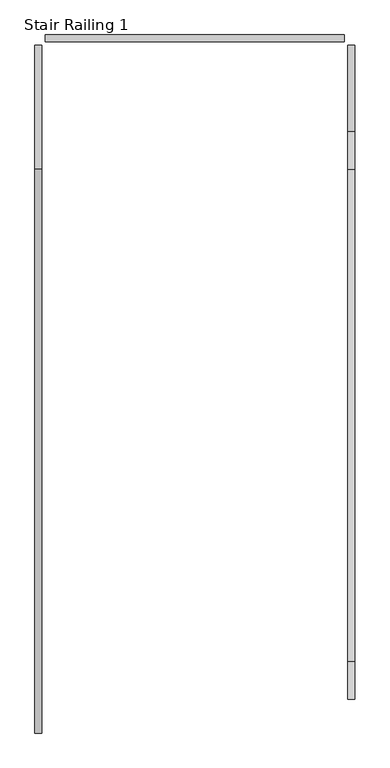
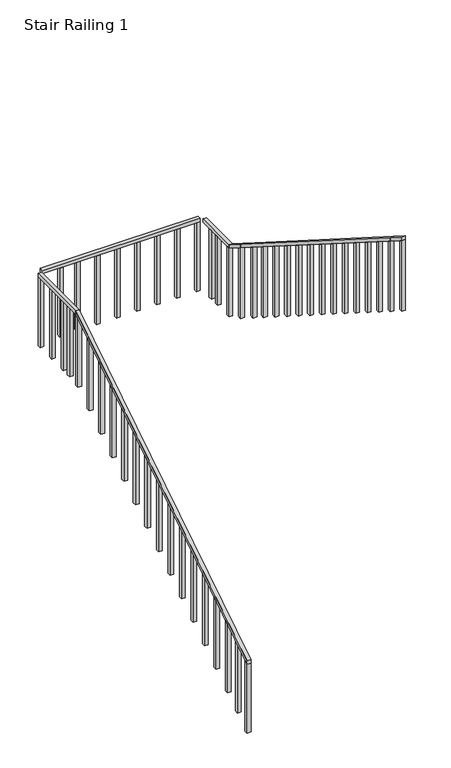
"""IFC4 building model written with IfcOpenShell, lengths in millimetres: railing geometry, Stair Railing 1."""

from ifc_helpers import new_model, si_unit, frame, origin, place, context, project, spatial, polyline, outline, extrude, source, transform, mapped, element, save


def stair_railing_1_c91c3353(model_context):
    return source(origin(), model_context, "Body", "SweptSolid", [
        extrude(outline(polyline([(42831.8085139, 3898.4903226), (42831.8085139, 3847.6903226), (38672.0798985, 1192.9806452), (38672.0798985, 1243.7806452), (42831.8085139, 3898.4903226)])), frame((-115094.690902, 0.0, 0.0), z_axis=(1.0, 0.0, 0.0), x_axis=(0.0, 1.0, 0.0)), (0.0, 0.0, 1.0), 50.8),
        extrude(outline(polyline([(38722.8798985, 1225.4008495), (38722.8798985, 176.9806452), (38672.0798985, 176.9806452), (38672.0798985, 1192.9806452), (38722.8798985, 1225.4008495)])), frame((-115094.690902, 0.0, 0.0), z_axis=(1.0, 0.0, 0.0), x_axis=(0.0, 1.0, 0.0)), (0.0, 0.0, 1.0), 50.8),
        extrude(outline(polyline([(38961.2442062, 1377.5232817), (38961.2442062, 329.1030774), (38910.4442062, 329.1030774), (38910.4442062, 1345.1030774), (38961.2442062, 1377.5232817)])), frame((-115094.690902, 0.0, 0.0), z_axis=(1.0, 0.0, 0.0), x_axis=(0.0, 1.0, 0.0)), (0.0, 0.0, 1.0), 50.8),
        extrude(outline(polyline([(39199.6085139, 1529.645714), (39199.6085139, 481.2255097), (39148.8085139, 481.2255097), (39148.8085139, 1497.2255097), (39199.6085139, 1529.645714)])), frame((-115094.690902, 0.0, 0.0), z_axis=(1.0, 0.0, 0.0), x_axis=(0.0, 1.0, 0.0)), (0.0, 0.0, 1.0), 50.8),
        extrude(outline(polyline([(39479.0085139, 1707.9568377), (39479.0085139, 659.5366334), (39428.2085139, 659.5366334), (39428.2085139, 1675.5366334), (39479.0085139, 1707.9568377)])), frame((-115094.690902, 0.0, 0.0), z_axis=(1.0, 0.0, 0.0), x_axis=(0.0, 1.0, 0.0)), (0.0, 0.0, 1.0), 50.8),
        extrude(outline(polyline([(39758.4085139, 1886.2679614), (39758.4085139, 837.8477571), (39707.6085139, 837.8477571), (39707.6085139, 1853.8477571), (39758.4085139, 1886.2679614)])), frame((-115094.690902, 0.0, 0.0), z_axis=(1.0, 0.0, 0.0), x_axis=(0.0, 1.0, 0.0)), (0.0, 0.0, 1.0), 50.8),
        extrude(outline(polyline([(40037.8085139, 2064.5790852), (40037.8085139, 1016.1588809), (39987.0085139, 1016.1588809), (39987.0085139, 2032.1588809), (40037.8085139, 2064.5790852)])), frame((-115094.690902, 0.0, 0.0), z_axis=(1.0, 0.0, 0.0), x_axis=(0.0, 1.0, 0.0)), (0.0, 0.0, 1.0), 50.8),
        extrude(outline(polyline([(40317.2085139, 2242.8902089), (40317.2085139, 1194.4700046), (40266.4085139, 1194.4700046), (40266.4085139, 2210.4700046), (40317.2085139, 2242.8902089)])), frame((-115094.690902, 0.0, 0.0), z_axis=(1.0, 0.0, 0.0), x_axis=(0.0, 1.0, 0.0)), (0.0, 0.0, 1.0), 50.8),
        extrude(outline(polyline([(40596.6085139, 2421.2013327), (40596.6085139, 1372.7811284), (40545.8085139, 1372.7811284), (40545.8085139, 2388.7811284), (40596.6085139, 2421.2013327)])), frame((-115094.690902, 0.0, 0.0), z_axis=(1.0, 0.0, 0.0), x_axis=(0.0, 1.0, 0.0)), (0.0, 0.0, 1.0), 50.8),
        extrude(outline(polyline([(40876.0085139, 2599.5124564), (40876.0085139, 1551.0922521), (40825.2085139, 1551.0922521), (40825.2085139, 2567.0922521), (40876.0085139, 2599.5124564)])), frame((-115094.690902, 0.0, 0.0), z_axis=(1.0, 0.0, 0.0), x_axis=(0.0, 1.0, 0.0)), (0.0, 0.0, 1.0), 50.8),
        extrude(outline(polyline([(41155.4085139, 2777.8235801), (41155.4085139, 1729.4033758), (41104.6085139, 1729.4033758), (41104.6085139, 2745.4033758), (41155.4085139, 2777.8235801)])), frame((-115094.690902, 0.0, 0.0), z_axis=(1.0, 0.0, 0.0), x_axis=(0.0, 1.0, 0.0)), (0.0, 0.0, 1.0), 50.8),
        extrude(outline(polyline([(41434.8085139, 2956.1347039), (41434.8085139, 1907.7144996), (41384.0085139, 1907.7144996), (41384.0085139, 2923.7144996), (41434.8085139, 2956.1347039)])), frame((-115094.690902, 0.0, 0.0), z_axis=(1.0, 0.0, 0.0), x_axis=(0.0, 1.0, 0.0)), (0.0, 0.0, 1.0), 50.8),
        extrude(outline(polyline([(41714.2085139, 3134.4458276), (41714.2085139, 2086.0256233), (41663.4085139, 2086.0256233), (41663.4085139, 3102.0256233), (41714.2085139, 3134.4458276)])), frame((-115094.690902, 0.0, 0.0), z_axis=(1.0, 0.0, 0.0), x_axis=(0.0, 1.0, 0.0)), (0.0, 0.0, 1.0), 50.8),
        extrude(outline(polyline([(41993.6085139, 3312.7569514), (41993.6085139, 2264.336747), (41942.8085139, 2264.336747), (41942.8085139, 3280.336747), (41993.6085139, 3312.7569514)])), frame((-115094.690902, 0.0, 0.0), z_axis=(1.0, 0.0, 0.0), x_axis=(0.0, 1.0, 0.0)), (0.0, 0.0, 1.0), 50.8),
        extrude(outline(polyline([(42273.0085139, 3491.0680751), (42273.0085139, 2442.6478708), (42222.2085139, 2442.6478708), (42222.2085139, 3458.6478708), (42273.0085139, 3491.0680751)])), frame((-115094.690902, 0.0, 0.0), z_axis=(1.0, 0.0, 0.0), x_axis=(0.0, 1.0, 0.0)), (0.0, 0.0, 1.0), 50.8),
        extrude(outline(polyline([(42552.4085139, 3669.3791988), (42552.4085139, 2620.9589945), (42501.6085139, 2620.9589945), (42501.6085139, 3636.9589945), (42552.4085139, 3669.3791988)])), frame((-115094.690902, 0.0, 0.0), z_axis=(1.0, 0.0, 0.0), x_axis=(0.0, 1.0, 0.0)), (0.0, 0.0, 1.0), 50.8),
        extrude(outline(polyline([(42831.8085139, 3847.6903226), (42831.8085139, 2799.2701183), (42781.0085139, 2799.2701183), (42781.0085139, 3815.2701183), (42831.8085139, 3847.6903226)])), frame((-115094.690902, 0.0, 0.0), z_axis=(1.0, 0.0, 0.0), x_axis=(0.0, 1.0, 0.0)), (0.0, 0.0, 1.0), 50.8),
        extrude(outline(polyline([(-115094.690902, 43746.2085139), (-115043.890902, 43746.2085139), (-115043.890902, 42831.8085139), (-115094.690902, 42831.8085139), (-115094.690902, 43746.2085139)])), frame((0.0, 0.0, 3847.6903226), z_axis=(0.0, 0.0, 1.0), x_axis=(1.0, 0.0, 0.0)), (0.0, 0.0, 1.0), 50.8),
        extrude(outline(polyline([(-115043.890902, 42984.2085139), (-115094.690902, 42984.2085139), (-115094.690902, 43035.0085139), (-115043.890902, 43035.0085139), (-115043.890902, 42984.2085139)])), frame((0.0, 0.0, 2831.6903226), z_axis=(0.0, 0.0, 1.0), x_axis=(1.0, 0.0, 0.0)), (0.0, 0.0, 1.0), 1016.0),
        extrude(outline(polyline([(-115043.890902, 43136.6085139), (-115094.690902, 43136.6085139), (-115094.690902, 43187.4085139), (-115043.890902, 43187.4085139), (-115043.890902, 43136.6085139)])), frame((0.0, 0.0, 2831.6903226), z_axis=(0.0, 0.0, 1.0), x_axis=(1.0, 0.0, 0.0)), (0.0, 0.0, 1.0), 1016.0),
        extrude(outline(polyline([(-115043.890902, 43416.0085139), (-115094.690902, 43416.0085139), (-115094.690902, 43466.8085139), (-115043.890902, 43466.8085139), (-115043.890902, 43416.0085139)])), frame((0.0, 0.0, 2831.6903226), z_axis=(0.0, 0.0, 1.0), x_axis=(1.0, 0.0, 0.0)), (0.0, 0.0, 1.0), 1016.0),
        extrude(outline(polyline([(-115043.890902, 43695.4085139), (-115094.690902, 43695.4085139), (-115094.690902, 43746.2085139), (-115043.890902, 43746.2085139), (-115043.890902, 43695.4085139)])), frame((0.0, 0.0, 2831.6903226), z_axis=(0.0, 0.0, 1.0), x_axis=(1.0, 0.0, 0.0)), (0.0, 0.0, 1.0), 1016.0),
        extrude(outline(polyline([(-112810.6492148, 43822.4085139), (-112810.6492148, 43771.6085139), (-115018.490902, 43771.6085139), (-115018.490902, 43822.4085139), (-112810.6492148, 43822.4085139)])), frame((0.0, 0.0, 3847.6903226), z_axis=(0.0, 0.0, 1.0), x_axis=(1.0, 0.0, 0.0)), (0.0, 0.0, 1.0), 50.8),
        extrude(outline(polyline([(-114778.1700584, 43771.6085139), (-114778.1700584, 43822.4085139), (-114727.3700584, 43822.4085139), (-114727.3700584, 43771.6085139), (-114778.1700584, 43771.6085139)])), frame((0.0, 0.0, 2831.6903226), z_axis=(0.0, 0.0, 1.0), x_axis=(1.0, 0.0, 0.0)), (0.0, 0.0, 1.0), 1016.0),
        extrude(outline(polyline([(-114537.8492148, 43771.6085139), (-114537.8492148, 43822.4085139), (-114487.0492148, 43822.4085139), (-114487.0492148, 43771.6085139), (-114537.8492148, 43771.6085139)])), frame((0.0, 0.0, 2831.6903226), z_axis=(0.0, 0.0, 1.0), x_axis=(1.0, 0.0, 0.0)), (0.0, 0.0, 1.0), 1016.0),
        extrude(outline(polyline([(-114258.4492148, 43771.6085139), (-114258.4492148, 43822.4085139), (-114207.6492148, 43822.4085139), (-114207.6492148, 43771.6085139), (-114258.4492148, 43771.6085139)])), frame((0.0, 0.0, 2831.6903226), z_axis=(0.0, 0.0, 1.0), x_axis=(1.0, 0.0, 0.0)), (0.0, 0.0, 1.0), 1016.0),
        extrude(outline(polyline([(-113979.0492148, 43771.6085139), (-113979.0492148, 43822.4085139), (-113928.2492148, 43822.4085139), (-113928.2492148, 43771.6085139), (-113979.0492148, 43771.6085139)])), frame((0.0, 0.0, 2831.6903226), z_axis=(0.0, 0.0, 1.0), x_axis=(1.0, 0.0, 0.0)), (0.0, 0.0, 1.0), 1016.0),
        extrude(outline(polyline([(-113699.6492148, 43771.6085139), (-113699.6492148, 43822.4085139), (-113648.8492148, 43822.4085139), (-113648.8492148, 43771.6085139), (-113699.6492148, 43771.6085139)])), frame((0.0, 0.0, 2831.6903226), z_axis=(0.0, 0.0, 1.0), x_axis=(1.0, 0.0, 0.0)), (0.0, 0.0, 1.0), 1016.0),
        extrude(outline(polyline([(-113420.2492148, 43771.6085139), (-113420.2492148, 43822.4085139), (-113369.4492148, 43822.4085139), (-113369.4492148, 43771.6085139), (-113420.2492148, 43771.6085139)])), frame((0.0, 0.0, 2831.6903226), z_axis=(0.0, 0.0, 1.0), x_axis=(1.0, 0.0, 0.0)), (0.0, 0.0, 1.0), 1016.0),
        extrude(outline(polyline([(-113140.8492148, 43771.6085139), (-113140.8492148, 43822.4085139), (-113090.0492148, 43822.4085139), (-113090.0492148, 43771.6085139), (-113140.8492148, 43771.6085139)])), frame((0.0, 0.0, 2831.6903226), z_axis=(0.0, 0.0, 1.0), x_axis=(1.0, 0.0, 0.0)), (0.0, 0.0, 1.0), 1016.0),
        extrude(outline(polyline([(-112861.4492148, 43771.6085139), (-112861.4492148, 43822.4085139), (-112810.6492148, 43822.4085139), (-112810.6492148, 43771.6085139), (-112861.4492148, 43771.6085139)])), frame((0.0, 0.0, 2831.6903226), z_axis=(0.0, 0.0, 1.0), x_axis=(1.0, 0.0, 0.0)), (0.0, 0.0, 1.0), 1016.0),
        extrude(outline(polyline([(-112734.4492148, 43111.2085139), (-112785.2492148, 43111.2085139), (-112785.2492148, 43746.2085139), (-112734.4492148, 43746.2085139), (-112734.4492148, 43111.2085139)])), frame((0.0, 0.0, 3847.6903226), z_axis=(0.0, 0.0, 1.0), x_axis=(1.0, 0.0, 0.0)), (0.0, 0.0, 1.0), 50.8),
        extrude(outline(polyline([(-112785.2492148, 43593.8085139), (-112734.4492148, 43593.8085139), (-112734.4492148, 43543.0085139), (-112785.2492148, 43543.0085139), (-112785.2492148, 43593.8085139)])), frame((0.0, 0.0, 2831.6903226), z_axis=(0.0, 0.0, 1.0), x_axis=(1.0, 0.0, 0.0)), (0.0, 0.0, 1.0), 1016.0),
        extrude(outline(polyline([(-112785.2492148, 43441.4085139), (-112734.4492148, 43441.4085139), (-112734.4492148, 43390.6085139), (-112785.2492148, 43390.6085139), (-112785.2492148, 43441.4085139)])), frame((0.0, 0.0, 2831.6903226), z_axis=(0.0, 0.0, 1.0), x_axis=(1.0, 0.0, 0.0)), (0.0, 0.0, 1.0), 1016.0),
        extrude(outline(polyline([(-112785.2492148, 43162.0085139), (-112734.4492148, 43162.0085139), (-112734.4492148, 43111.2085139), (-112785.2492148, 43111.2085139), (-112785.2492148, 43162.0085139)])), frame((0.0, 0.0, 2831.6903226), z_axis=(0.0, 0.0, 1.0), x_axis=(1.0, 0.0, 0.0)), (0.0, 0.0, 1.0), 1016.0),
        extrude(outline(polyline([(42831.8085139, 4024.6709677), (42831.8085139, 4075.4709677), (43111.2085139, 3898.4903226), (43111.2085139, 3847.6903226), (42831.8085139, 4024.6709677)])), frame((-112785.2492148, 0.0, 0.0), z_axis=(1.0, 0.0, 0.0), x_axis=(0.0, 1.0, 0.0)), (0.0, 0.0, 1.0), 50.8),
        extrude(outline(polyline([(42882.6085139, 3992.4926686), (42882.6085139, 2976.4926686), (42831.8085139, 2976.4926686), (42831.8085139, 4024.6709677), (42882.6085139, 3992.4926686)])), frame((-112785.2492148, 0.0, 0.0), z_axis=(1.0, 0.0, 0.0), x_axis=(0.0, 1.0, 0.0)), (0.0, 0.0, 1.0), 50.8),
        extrude(outline(polyline([(39199.6085139, 6325.4193548), (39199.6085139, 6376.2193548), (42831.8085139, 4075.4709677), (42831.8085139, 4024.6709677), (39199.6085139, 6325.4193548)])), frame((-112785.2492148, 0.0, 0.0), z_axis=(1.0, 0.0, 0.0), x_axis=(0.0, 1.0, 0.0)), (0.0, 0.0, 1.0), 50.8),
        extrude(outline(polyline([(42577.8085139, 4185.5624633), (42577.8085139, 3169.5624633), (42527.0085139, 3169.5624633), (42527.0085139, 4217.7407625), (42577.8085139, 4185.5624633)])), frame((-112785.2492148, 0.0, 0.0), z_axis=(1.0, 0.0, 0.0), x_axis=(0.0, 1.0, 0.0)), (0.0, 0.0, 1.0), 50.8),
        extrude(outline(polyline([(42323.8085139, 4346.4539589), (42323.8085139, 3330.4539589), (42273.0085139, 3330.4539589), (42273.0085139, 4378.6322581), (42323.8085139, 4346.4539589)])), frame((-112785.2492148, 0.0, 0.0), z_axis=(1.0, 0.0, 0.0), x_axis=(0.0, 1.0, 0.0)), (0.0, 0.0, 1.0), 50.8),
        extrude(outline(polyline([(42044.4085139, 4523.4346041), (42044.4085139, 3507.4346041), (41993.6085139, 3507.4346041), (41993.6085139, 4555.6129032), (42044.4085139, 4523.4346041)])), frame((-112785.2492148, 0.0, 0.0), z_axis=(1.0, 0.0, 0.0), x_axis=(0.0, 1.0, 0.0)), (0.0, 0.0, 1.0), 50.8),
        extrude(outline(polyline([(41765.0085139, 4700.4152493), (41765.0085139, 3684.4152493), (41714.2085139, 3684.4152493), (41714.2085139, 4732.5935484), (41765.0085139, 4700.4152493)])), frame((-112785.2492148, 0.0, 0.0), z_axis=(1.0, 0.0, 0.0), x_axis=(0.0, 1.0, 0.0)), (0.0, 0.0, 1.0), 50.8),
        extrude(outline(polyline([(41485.6085139, 4877.3958944), (41485.6085139, 3861.3958944), (41434.8085139, 3861.3958944), (41434.8085139, 4909.5741935), (41485.6085139, 4877.3958944)])), frame((-112785.2492148, 0.0, 0.0), z_axis=(1.0, 0.0, 0.0), x_axis=(0.0, 1.0, 0.0)), (0.0, 0.0, 1.0), 50.8),
        extrude(outline(polyline([(41206.2085139, 5054.3765396), (41206.2085139, 4038.3765396), (41155.4085139, 4038.3765396), (41155.4085139, 5086.5548387), (41206.2085139, 5054.3765396)])), frame((-112785.2492148, 0.0, 0.0), z_axis=(1.0, 0.0, 0.0), x_axis=(0.0, 1.0, 0.0)), (0.0, 0.0, 1.0), 50.8),
        extrude(outline(polyline([(40926.8085139, 5231.3571848), (40926.8085139, 4215.3571848), (40876.0085139, 4215.3571848), (40876.0085139, 5263.5354839), (40926.8085139, 5231.3571848)])), frame((-112785.2492148, 0.0, 0.0), z_axis=(1.0, 0.0, 0.0), x_axis=(0.0, 1.0, 0.0)), (0.0, 0.0, 1.0), 50.8),
        extrude(outline(polyline([(40647.4085139, 5408.3378299), (40647.4085139, 4392.3378299), (40596.6085139, 4392.3378299), (40596.6085139, 5440.516129), (40647.4085139, 5408.3378299)])), frame((-112785.2492148, 0.0, 0.0), z_axis=(1.0, 0.0, 0.0), x_axis=(0.0, 1.0, 0.0)), (0.0, 0.0, 1.0), 50.8),
        extrude(outline(polyline([(40368.0085139, 5585.3184751), (40368.0085139, 4569.3184751), (40317.2085139, 4569.3184751), (40317.2085139, 5617.4967742), (40368.0085139, 5585.3184751)])), frame((-112785.2492148, 0.0, 0.0), z_axis=(1.0, 0.0, 0.0), x_axis=(0.0, 1.0, 0.0)), (0.0, 0.0, 1.0), 50.8),
        extrude(outline(polyline([(40088.6085139, 5762.2991202), (40088.6085139, 4746.2991202), (40037.8085139, 4746.2991202), (40037.8085139, 5794.4774194), (40088.6085139, 5762.2991202)])), frame((-112785.2492148, 0.0, 0.0), z_axis=(1.0, 0.0, 0.0), x_axis=(0.0, 1.0, 0.0)), (0.0, 0.0, 1.0), 50.8),
        extrude(outline(polyline([(39809.2085139, 5939.2797654), (39809.2085139, 4923.2797654), (39758.4085139, 4923.2797654), (39758.4085139, 5971.4580645), (39809.2085139, 5939.2797654)])), frame((-112785.2492148, 0.0, 0.0), z_axis=(1.0, 0.0, 0.0), x_axis=(0.0, 1.0, 0.0)), (0.0, 0.0, 1.0), 50.8),
        extrude(outline(polyline([(39529.8085139, 6116.2604106), (39529.8085139, 5100.2604106), (39479.0085139, 5100.2604106), (39479.0085139, 6148.4387097), (39529.8085139, 6116.2604106)])), frame((-112785.2492148, 0.0, 0.0), z_axis=(1.0, 0.0, 0.0), x_axis=(0.0, 1.0, 0.0)), (0.0, 0.0, 1.0), 50.8),
        extrude(outline(polyline([(39250.4085139, 6293.2410557), (39250.4085139, 5277.2410557), (39199.6085139, 5277.2410557), (39199.6085139, 6325.4193548), (39250.4085139, 6293.2410557)])), frame((-112785.2492148, 0.0, 0.0), z_axis=(1.0, 0.0, 0.0), x_axis=(0.0, 1.0, 0.0)), (0.0, 0.0, 1.0), 50.8),
        extrude(outline(polyline([(38920.2085139, 6502.4), (38920.2085139, 6553.2), (39199.6085139, 6376.2193548), (39199.6085139, 6325.4193548), (38920.2085139, 6502.4)])), frame((-112785.2492148, 0.0, 0.0), z_axis=(1.0, 0.0, 0.0), x_axis=(0.0, 1.0, 0.0)), (0.0, 0.0, 1.0), 50.8),
        extrude(outline(polyline([(38971.0085139, 6470.2217009), (38971.0085139, 5454.2217009), (38920.2085139, 5454.2217009), (38920.2085139, 6502.4), (38971.0085139, 6470.2217009)])), frame((-112785.2492148, 0.0, 0.0), z_axis=(1.0, 0.0, 0.0), x_axis=(0.0, 1.0, 0.0)), (0.0, 0.0, 1.0), 50.8),
    ])


if __name__ == "__main__":
    model = new_model("IFC4")
    model_context = context("Model", 3, world=origin())
    ifc_project = project(units=[si_unit("LENGTHUNIT", "METRE", prefix="MILLI")], contexts=[model_context])
    site = spatial("IfcSite", under=ifc_project)
    building = spatial("IfcBuilding", under=site)
    placement = place(None, origin())
    stair_railing_1_shape = stair_railing_1_c91c3353(model_context)
    element("IfcRailing", 1, ObjectType="Stair Railing 1", at=placement, inside=building, context=model_context, shape_type="MappedRepresentation", body=[
        mapped(stair_railing_1_shape, transform((0.0, 0.0, 0.0), x_axis=(1.0, 0.0, 0.0), y_axis=(0.0, 1.0, 0.0), z_axis=(0.0, 0.0, 1.0))),
    ])
    save(model, "model.ifc")
